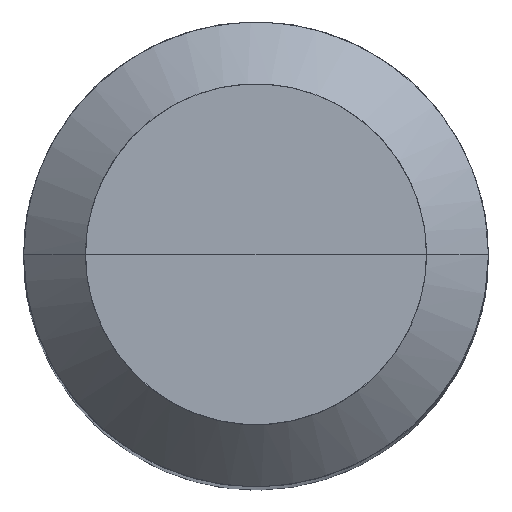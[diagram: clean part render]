
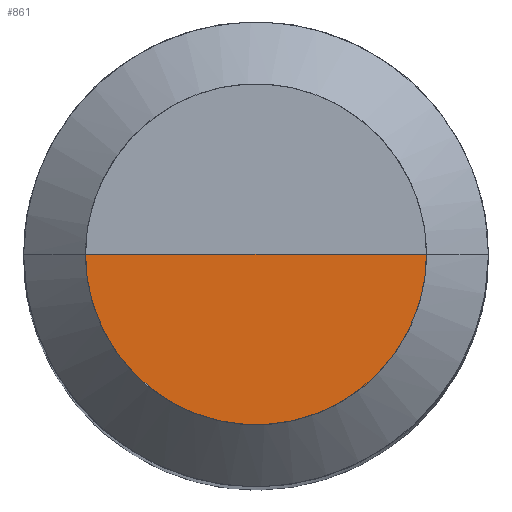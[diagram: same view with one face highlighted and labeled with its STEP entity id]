
A CAD part, top view. The second image highlights one B-rep face of the part: STEP entity #861.
In plain terms, the highlighted free-form (B-spline) face has degree [1, 2] with [2, 5] control points.
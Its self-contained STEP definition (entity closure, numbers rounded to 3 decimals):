
#506=CARTESIAN_POINT('',(2.2,0.0,24.268));
#510=CARTESIAN_POINT('',(-2.2,0.0,24.268));
#511=CARTESIAN_POINT('',(0.0,0.0,24.268));
#521=CARTESIAN_POINT('',(-2.2,-2.2,24.268));
#522=CARTESIAN_POINT('',(0.0,-2.2,24.268));
#523=CARTESIAN_POINT('',(2.2,-2.2,24.268));
#846=(
BOUNDED_SURFACE()
B_SPLINE_SURFACE(1,2,(
(#510,#521,#522,#523,#506),
(#511,#511,#511,#511,#511)
), .UNSPECIFIED.,.F.,.F.,.F.)
B_SPLINE_SURFACE_WITH_KNOTS((2,2),(3,2,3),(
0.0,1.0),(
0.0,0.5,1.0), .UNSPECIFIED.)
GEOMETRIC_REPRESENTATION_ITEM()
RATIONAL_B_SPLINE_SURFACE(((1.0,0.707,1.0,0.707,1.0),
(1.0,0.707,1.0,0.707,1.0)
))
REPRESENTATION_ITEM('')
SURFACE()
);
#847=(
BOUNDED_CURVE()
B_SPLINE_CURVE(2,(#506,#523,#522,#521,#510),.UNSPECIFIED.,.F.,.F.)
B_SPLINE_CURVE_WITH_KNOTS((3,2,3),
(0.0,0.5,1.0),.UNSPECIFIED.)
CURVE()
GEOMETRIC_REPRESENTATION_ITEM()
RATIONAL_B_SPLINE_CURVE((1.0,0.707,1.0,0.707,1.0))
REPRESENTATION_ITEM('')
);
#848=(
BOUNDED_CURVE()
B_SPLINE_CURVE(1,(#510,#511),.UNSPECIFIED.,.F.,.F.)
B_SPLINE_CURVE_WITH_KNOTS((2,2),
(0.0,1.0),.UNSPECIFIED.)
CURVE()
GEOMETRIC_REPRESENTATION_ITEM()
RATIONAL_B_SPLINE_CURVE((1.0,1.0))
REPRESENTATION_ITEM('')
);
#849=(
BOUNDED_CURVE()
B_SPLINE_CURVE(1,(#511,#506),.UNSPECIFIED.,.F.,.F.)
B_SPLINE_CURVE_WITH_KNOTS((2,2),
(0.0,1.0),.UNSPECIFIED.)
CURVE()
GEOMETRIC_REPRESENTATION_ITEM()
RATIONAL_B_SPLINE_CURVE((1.0,1.0))
REPRESENTATION_ITEM('')
);
#850=VERTEX_POINT('',#506);
#851=VERTEX_POINT('',#510);
#852=VERTEX_POINT('',#511);
#853=EDGE_CURVE('',#850,#851,#847,.T.);
#854=EDGE_CURVE('',#851,#852,#848,.T.);
#855=EDGE_CURVE('',#852,#850,#849,.T.);
#856=ORIENTED_EDGE('',*,*,#853,.T.);
#857=ORIENTED_EDGE('',*,*,#854,.T.);
#858=ORIENTED_EDGE('',*,*,#855,.T.);
#859=EDGE_LOOP('',(#856,#857,#858));
#860=FACE_OUTER_BOUND('',#859,.T.);
#861=ADVANCED_FACE('',(#860),#846,.T.);
